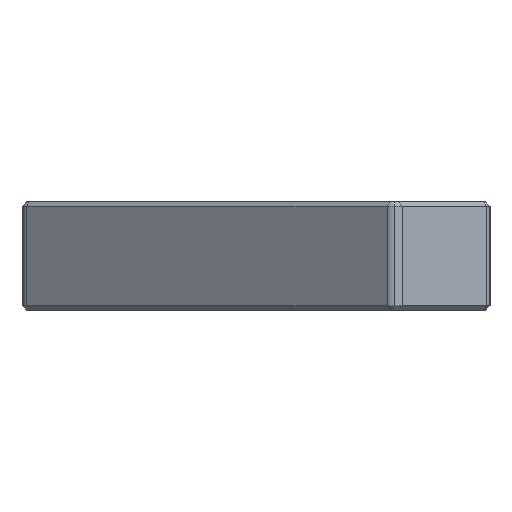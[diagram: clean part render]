
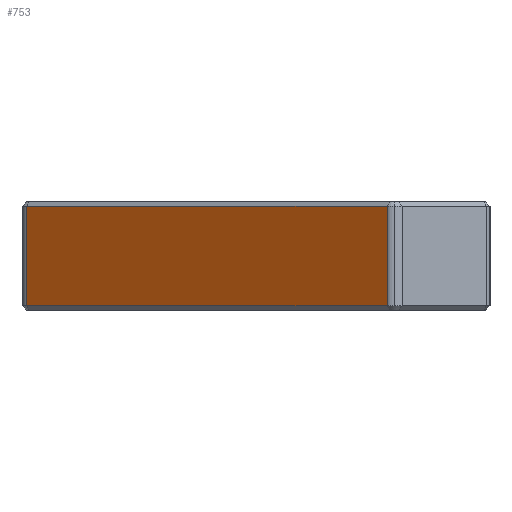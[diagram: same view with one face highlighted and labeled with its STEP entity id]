
A CAD part, left-side view. The second image highlights one B-rep face of the part: STEP entity #753.
In plain terms, the highlighted planar face has unit normal (-0.791, 0.612, 0).
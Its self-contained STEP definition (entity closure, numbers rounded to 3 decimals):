
#144 = VECTOR ( 'NONE', #997, 1000. ) ;
#171 = EDGE_CURVE ( 'NONE', #1495, #187, #1607, .T. ) ;
#185 = CARTESIAN_POINT ( 'NONE',  ( -87.792, 16.55, 116.984 ) ) ;
#187 = VERTEX_POINT ( 'NONE', #510 ) ;
#239 = CARTESIAN_POINT ( 'NONE',  ( -107.776, -9.28, -3.525 ) ) ;
#251 = ORIENTED_EDGE ( 'NONE', *, *, #171, .T. ) ;
#271 = ORIENTED_EDGE ( 'NONE', *, *, #1523, .T. ) ;
#305 = VECTOR ( 'NONE', #1952, 1000. ) ;
#482 = CARTESIAN_POINT ( 'NONE',  ( -107.776, -9.28, -3.525 ) ) ;
#483 = VERTEX_POINT ( 'NONE', #1958 ) ;
#502 = DIRECTION ( 'NONE',  ( 0.791, -0.612, 0. ) ) ;
#510 = CARTESIAN_POINT ( 'NONE',  ( -88.032, 16.24, 3.525 ) ) ;
#524 = DIRECTION ( 'NONE',  ( 0.612, 0.791, 0. ) ) ;
#546 = CARTESIAN_POINT ( 'NONE',  ( -88.032, 16.24, 116.984 ) ) ;
#625 = ORIENTED_EDGE ( 'NONE', *, *, #886, .T. ) ;
#680 = LINE ( 'NONE', #1339, #305 ) ;
#714 = CARTESIAN_POINT ( 'NONE',  ( -107.776, -9.28, 3.525 ) ) ;
#723 = LINE ( 'NONE', #239, #1484 ) ;
#742 = EDGE_LOOP ( 'NONE', ( #1878, #625, #271, #251 ) ) ;
#753 = ADVANCED_FACE ( 'NONE', ( #1513 ), #1865, .F. ) ;
#809 = CARTESIAN_POINT ( 'NONE',  ( -88.032, 16.24, 3.525 ) ) ;
#859 = LINE ( 'NONE', #546, #144 ) ;
#886 = EDGE_CURVE ( 'NONE', #483, #1835, #723, .T. ) ;
#938 = DIRECTION ( 'NONE',  ( 0.612, 0.791, 0. ) ) ;
#985 = DIRECTION ( 'NONE',  ( -0.612, -0.791, 0. ) ) ;
#997 = DIRECTION ( 'NONE',  ( 0., 0., -1. ) ) ;
#1339 = CARTESIAN_POINT ( 'NONE',  ( -107.776, -9.28, 116.984 ) ) ;
#1424 = EDGE_CURVE ( 'NONE', #187, #483, #859, .T. ) ;
#1484 = VECTOR ( 'NONE', #985, 1000. ) ;
#1495 = VERTEX_POINT ( 'NONE', #714 ) ;
#1501 = VECTOR ( 'NONE', #524, 1000. ) ;
#1513 = FACE_OUTER_BOUND ( 'NONE', #742, .T. ) ;
#1523 = EDGE_CURVE ( 'NONE', #1835, #1495, #680, .T. ) ;
#1607 = LINE ( 'NONE', #809, #1501 ) ;
#1646 = AXIS2_PLACEMENT_3D ( 'NONE', #185, #502, #938 ) ;
#1835 = VERTEX_POINT ( 'NONE', #482 ) ;
#1865 = PLANE ( 'NONE',  #1646 ) ;
#1878 = ORIENTED_EDGE ( 'NONE', *, *, #1424, .T. ) ;
#1952 = DIRECTION ( 'NONE',  ( 0., 0., 1. ) ) ;
#1958 = CARTESIAN_POINT ( 'NONE',  ( -88.032, 16.24, -3.525 ) ) ;
